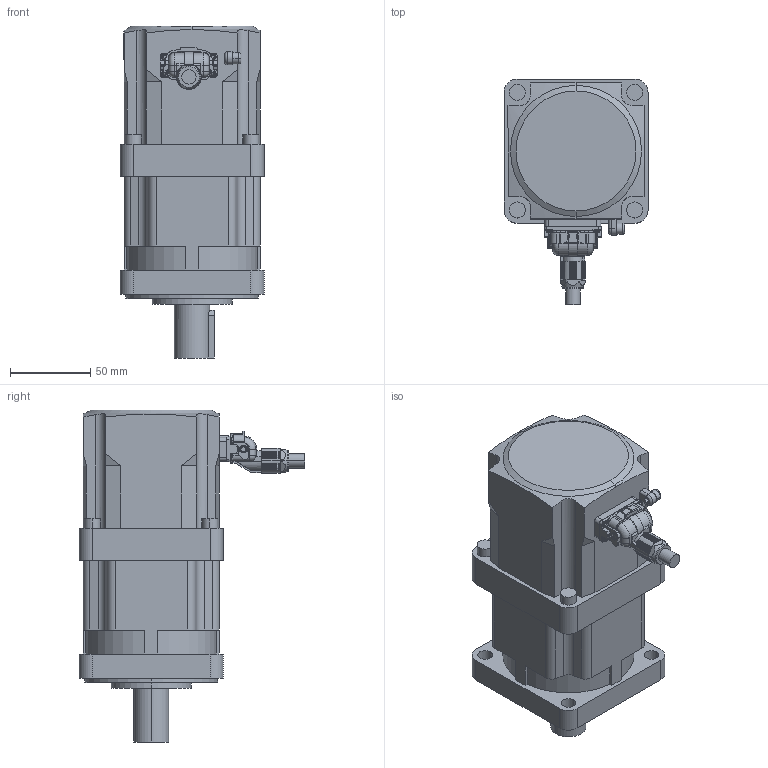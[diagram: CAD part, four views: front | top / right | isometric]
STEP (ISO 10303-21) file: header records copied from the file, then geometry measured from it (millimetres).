
FILE_DESCRIPTION (( 'STEP AP203' ), '1' );
FILE_NAME ('B1634_V.step', '2025-07-03T06:15:04', ( '' ), ( '' ), 'SwSTEP 2.0', 'SolidWorks 2023', '' );
FILE_SCHEMA (( 'CONFIG_CONTROL_DESIGN' ));
Length unit declared in the file: millimetre
Products named in the file (1): B1634_V
Bounding box: 90 x 141.1 x 207.5 mm (x, y, z)
Volume: 1157527.2 mm3; surface area: 86990 mm2
Topology: 1 solids, 5 shells, 684 faces, 1863 edges, 1211 vertices
Faces by surface type: plane 387, cylinder 260, cone 18, torus 15, sphere 4
Entity records: 21870 total; most frequent: CARTESIAN_POINT 4061, DIRECTION 3801, ORIENTED_EDGE 3706, EDGE_CURVE 1853, AXIS2_PLACEMENT_3D 1303, VERTEX_POINT 1211, VECTOR 1195, LINE 1195
